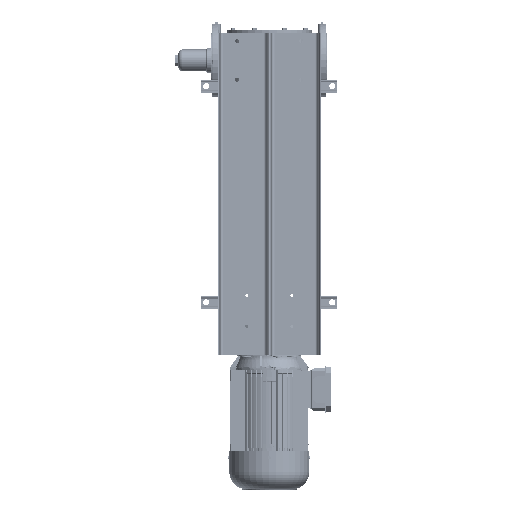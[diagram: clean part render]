
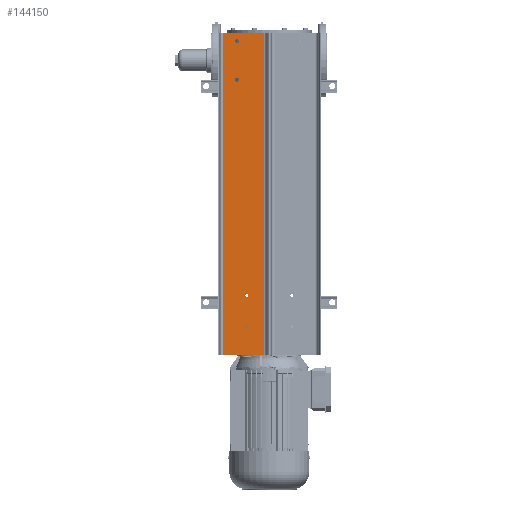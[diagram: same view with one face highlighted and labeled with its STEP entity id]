
A CAD part, front view. The second image highlights one B-rep face of the part: STEP entity #144150.
In plain terms, the highlighted planar face has unit normal (0, -1, 0) as drawn and (1, 0, 0) by its records, which use the part's own axes.
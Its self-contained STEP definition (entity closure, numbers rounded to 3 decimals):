
#142464=DIRECTION('',(0.,1.,0.));
#142465=VECTOR('',#142464,1250.);
#142466=CARTESIAN_POINT('',(8.5,0.,-177.965));
#142467=LINE('',#142466,#142465);
#142472=DIRECTION('',(0.,0.,1.));
#142473=VECTOR('',#142472,155.93);
#142474=CARTESIAN_POINT('',(8.5,0.,-177.965));
#142475=LINE('',#142474,#142473);
#142476=CARTESIAN_POINT('',(8.5,1138.,-87.5));
#142477=DIRECTION('',(1.,0.,0.));
#142478=DIRECTION('',(0.,1.,0.));
#142479=AXIS2_PLACEMENT_3D('',#142476,#142477,#142478);
#142481=CARTESIAN_POINT('',(8.5,1138.,-87.5));
#142482=DIRECTION('',(1.,0.,0.));
#142483=DIRECTION('',(0.,-1.,0.));
#142484=AXIS2_PLACEMENT_3D('',#142481,#142482,#142483);
#142486=CARTESIAN_POINT('',(8.5,1018.,-87.5));
#142487=DIRECTION('',(1.,0.,0.));
#142488=DIRECTION('',(0.,1.,0.));
#142489=AXIS2_PLACEMENT_3D('',#142486,#142487,#142488);
#142491=CARTESIAN_POINT('',(8.5,1018.,-87.5));
#142492=DIRECTION('',(1.,0.,0.));
#142493=DIRECTION('',(0.,-1.,0.));
#142494=AXIS2_PLACEMENT_3D('',#142491,#142492,#142493);
#142496=CARTESIAN_POINT('',(8.5,180.,-125.));
#142497=DIRECTION('',(1.,0.,0.));
#142498=DIRECTION('',(0.,1.,0.));
#142499=AXIS2_PLACEMENT_3D('',#142496,#142497,#142498);
#142501=CARTESIAN_POINT('',(8.5,180.,-125.));
#142502=DIRECTION('',(1.,0.,0.));
#142503=DIRECTION('',(0.,-1.,0.));
#142504=AXIS2_PLACEMENT_3D('',#142501,#142502,#142503);
#142506=CARTESIAN_POINT('',(8.5,30.,-125.));
#142507=DIRECTION('',(1.,0.,0.));
#142508=DIRECTION('',(0.,1.,0.));
#142509=AXIS2_PLACEMENT_3D('',#142506,#142507,#142508);
#142511=CARTESIAN_POINT('',(8.5,30.,-125.));
#142512=DIRECTION('',(1.,0.,0.));
#142513=DIRECTION('',(0.,-1.,0.));
#142514=AXIS2_PLACEMENT_3D('',#142511,#142512,#142513);
#142520=DIRECTION('',(0.,-1.,0.));
#142521=VECTOR('',#142520,1250.);
#142522=CARTESIAN_POINT('',(8.5,1250.,-22.035));
#142523=LINE('',#142522,#142521);
#142623=DIRECTION('',(0.,0.,1.));
#142624=VECTOR('',#142623,155.93);
#142625=CARTESIAN_POINT('',(8.5,1250.,-177.965));
#142626=LINE('',#142625,#142624);
#143180=CARTESIAN_POINT('',(8.5,0.,-22.035));
#143181=VERTEX_POINT('',#143180);
#143182=CARTESIAN_POINT('',(8.5,0.,-177.965));
#143183=VERTEX_POINT('',#143182);
#143396=CARTESIAN_POINT('',(8.5,1250.,-177.965));
#143397=VERTEX_POINT('',#143396);
#143398=CARTESIAN_POINT('',(8.5,1250.,-22.035));
#143399=VERTEX_POINT('',#143398);
#143400=CARTESIAN_POINT('',(8.5,1144.,-87.5));
#143401=CARTESIAN_POINT('',(8.5,1132.,-87.5));
#143402=VERTEX_POINT('',#143400);
#143403=VERTEX_POINT('',#143401);
#143404=CARTESIAN_POINT('',(8.5,1024.,-87.5));
#143405=CARTESIAN_POINT('',(8.5,1012.,-87.5));
#143406=VERTEX_POINT('',#143404);
#143407=VERTEX_POINT('',#143405);
#143408=CARTESIAN_POINT('',(8.5,188.,-125.));
#143409=CARTESIAN_POINT('',(8.5,172.,-125.));
#143410=VERTEX_POINT('',#143408);
#143411=VERTEX_POINT('',#143409);
#143412=CARTESIAN_POINT('',(8.5,38.,-125.));
#143413=CARTESIAN_POINT('',(8.5,22.,-125.));
#143414=VERTEX_POINT('',#143412);
#143415=VERTEX_POINT('',#143413);
#144113=CARTESIAN_POINT('',(8.5,0.,-22.035));
#144114=DIRECTION('',(1.,0.,0.));
#144115=DIRECTION('',(0.,0.,-1.));
#144116=AXIS2_PLACEMENT_3D('',#144113,#144114,#144115);
#144117=PLANE('',#144116);
#144118=ORIENTED_EDGE('',*,*,#143533,.T.);
#144120=ORIENTED_EDGE('',*,*,#144119,.F.);
#144122=ORIENTED_EDGE('',*,*,#144121,.F.);
#144123=ORIENTED_EDGE('',*,*,#144105,.F.);
#144124=EDGE_LOOP('',(#144118,#144120,#144122,#144123));
#144125=FACE_OUTER_BOUND('',#144124,.F.);
#144127=ORIENTED_EDGE('',*,*,#144126,.T.);
#144129=ORIENTED_EDGE('',*,*,#144128,.T.);
#144130=EDGE_LOOP('',(#144127,#144129));
#144131=FACE_BOUND('',#144130,.F.);
#144133=ORIENTED_EDGE('',*,*,#144132,.T.);
#144135=ORIENTED_EDGE('',*,*,#144134,.T.);
#144136=EDGE_LOOP('',(#144133,#144135));
#144137=FACE_BOUND('',#144136,.F.);
#144139=ORIENTED_EDGE('',*,*,#144138,.T.);
#144141=ORIENTED_EDGE('',*,*,#144140,.T.);
#144142=EDGE_LOOP('',(#144139,#144141));
#144143=FACE_BOUND('',#144142,.F.);
#144145=ORIENTED_EDGE('',*,*,#144144,.T.);
#144147=ORIENTED_EDGE('',*,*,#144146,.T.);
#144148=EDGE_LOOP('',(#144145,#144147));
#144149=FACE_BOUND('',#144148,.F.);
#144150=ADVANCED_FACE('',(#144125,#144131,#144137,#144143,#144149),#144117,.T.);
#142480=CIRCLE('',#142479,6.);
#142485=CIRCLE('',#142484,6.);
#142490=CIRCLE('',#142489,6.);
#142495=CIRCLE('',#142494,6.);
#142500=CIRCLE('',#142499,8.);
#142505=CIRCLE('',#142504,8.);
#142510=CIRCLE('',#142509,8.);
#142515=CIRCLE('',#142514,8.);
#143533=EDGE_CURVE('',#143183,#143181,#142475,.T.);
#144105=EDGE_CURVE('',#143183,#143397,#142467,.T.);
#144119=EDGE_CURVE('',#143399,#143181,#142523,.T.);
#144121=EDGE_CURVE('',#143397,#143399,#142626,.T.);
#144126=EDGE_CURVE('',#143402,#143403,#142480,.T.);
#144128=EDGE_CURVE('',#143403,#143402,#142485,.T.);
#144132=EDGE_CURVE('',#143406,#143407,#142490,.T.);
#144134=EDGE_CURVE('',#143407,#143406,#142495,.T.);
#144138=EDGE_CURVE('',#143410,#143411,#142500,.T.);
#144140=EDGE_CURVE('',#143411,#143410,#142505,.T.);
#144144=EDGE_CURVE('',#143414,#143415,#142510,.T.);
#144146=EDGE_CURVE('',#143415,#143414,#142515,.T.);
